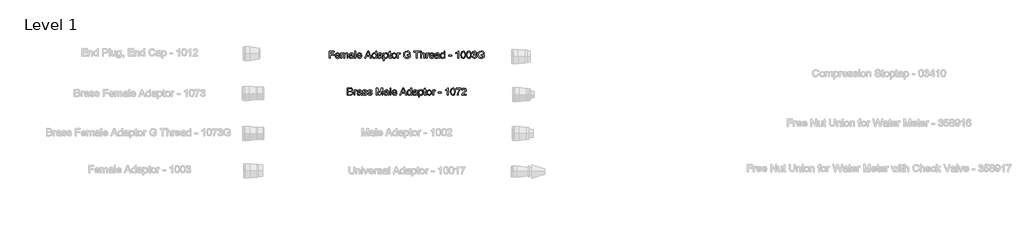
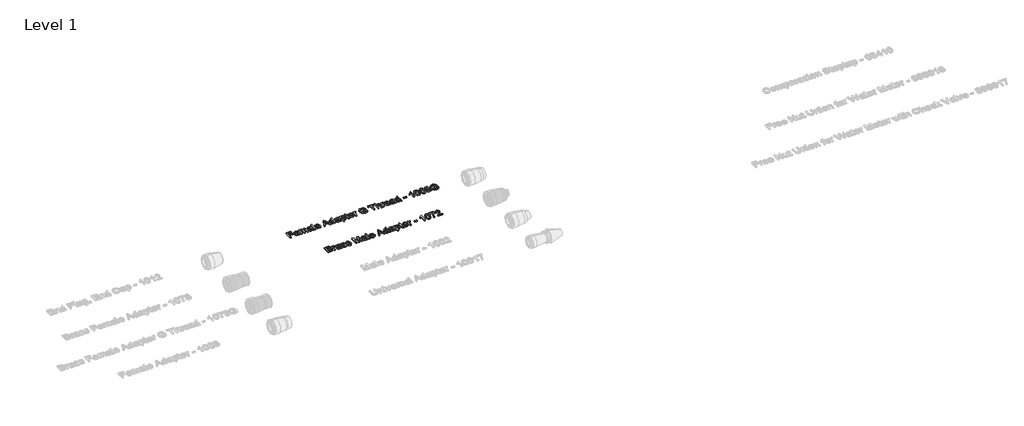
# One storey, part 10 of 13: 2 proxies.
"""IFC4 building model written with IfcOpenShell, lengths in millimetres."""

from ifc_helpers import new_model, si_unit, origin, origin_with_axes, place, context, project, spatial, polyline, outline, extrude, element, save

model = new_model("IFC4")

# Units and contexts
model_context = context("Model", 3, world=origin())
ifc_project = project(units=[si_unit("LENGTHUNIT", "METRE", prefix="MILLI")], contexts=[model_context])

# Site, building, storey
site = spatial("IfcSite", under=ifc_project)
building = spatial("IfcBuilding", under=site)
storey = spatial("IfcBuildingStorey", under=building, Name="Level 1", Elevation=0.0)

# Proxies
placement = place(None, origin())
element("IfcBuildingElementProxy", 1, Name="30 mm Arial", ObjectType="30 mm Arial", at=placement, inside=storey, context=model_context, shape_type="SweptSolid", body=[
    extrude(outline(polyline([(16639.7475855, 4915.4203685), (16639.7475855, 4944.9588301), (16659.5937393, 4944.9588301), (16659.5937393, 4941.2665224), (16643.4398932, 4941.2665224), (16643.4398932, 4932.4972916), (16657.286047, 4932.4972916), (16657.286047, 4928.8049839), (16643.4398932, 4928.8049839), (16643.4398932, 4915.4203685), (16639.7475855, 4915.4203685)])), origin_with_axes(), (0.0, 0.0, 1.0), 5.0),
    extrude(outline(polyline([(16679.3966239, 4921.881907), (16683.0168162, 4921.4203685), (16679.6309989, 4916.6535416), (16673.3245085, 4914.9588301), (16665.6586432, 4917.8831089), (16662.8245085, 4926.0862339), (16665.6874893, 4934.5597916), (16673.1153739, 4937.5742147), (16680.3305182, 4934.5670031), (16683.1322008, 4926.1078685), (16666.5168162, 4925.1126762), (16668.6406143, 4920.3170031), (16673.3966239, 4918.6511378), (16677.0168162, 4919.4227724), (16679.3966239, 4921.881907)]), holes=[polyline([(16666.5168162, 4928.8049839), (16679.4398932, 4928.8049839), (16677.9615278, 4932.1511378), (16673.1009508, 4933.881907), (16668.5540758, 4932.5008974), (16666.5168162, 4928.8049839)])]), origin_with_axes(), (0.0, 0.0, 1.0), 5.0),
    extrude(outline(polyline([(16686.8245085, 4915.4203685), (16686.8245085, 4937.1126762), (16690.5168162, 4937.1126762), (16690.5168162, 4933.5429647), (16693.0552778, 4936.4672435), (16696.6682585, 4937.5742147), (16700.3677778, 4936.4456089), (16702.4014316, 4933.2833493), (16708.9206624, 4937.5742147), (16713.7487874, 4935.7893589), (16715.4398932, 4930.2905608), (16715.4398932, 4915.4203685), (16711.7475855, 4915.4203685), (16711.7475855, 4928.7040224), (16711.4050374, 4931.7869551), (16710.1646528, 4933.3049839), (16708.0552778, 4933.881907), (16704.4242682, 4932.4035416), (16702.9783547, 4927.6655608), (16702.9783547, 4915.4203685), (16699.286047, 4915.4203685), (16699.286047, 4929.1150801), (16698.4314797, 4932.6920031), (16695.629797, 4933.881907), (16692.8966239, 4933.0886378), (16691.0793162, 4930.7665224), (16690.5168162, 4926.3602724), (16690.5168162, 4915.4203685), (16686.8245085, 4915.4203685)])), origin_with_axes(), (0.0, 0.0, 1.0), 5.0),
    extrude(outline(polyline([(16734.8245085, 4918.1895993), (16731.2439797, 4915.6871954), (16727.2884508, 4914.9588301), (16721.926672, 4916.7112339), (16720.0552778, 4921.1895993), (16720.7620085, 4924.1102724), (16722.6189797, 4926.2304647), (16725.2043162, 4927.4420031), (16728.3990278, 4927.9972916), (16734.8028739, 4929.2665224), (16733.8076816, 4932.8145993), (16729.7259508, 4933.881907), (16725.9903739, 4933.1715704), (16724.2091239, 4930.6511378), (16720.5168162, 4931.1126762), (16722.114172, 4934.7184454), (16725.3305182, 4936.8314262), (16730.2019124, 4937.5742147), (16734.676672, 4936.9179647), (16737.2043162, 4935.2701281), (16738.3365278, 4932.7641185), (16738.5168162, 4929.5333493), (16738.5168162, 4924.9395993), (16738.7043162, 4918.5249358), (16739.4398932, 4915.4203685), (16735.7475855, 4915.4203685), (16734.8245085, 4918.1895993)]), holes=[polyline([(16734.8136912, 4925.0513781), (16728.8677778, 4924.4420031), (16725.6910951, 4923.8434454), (16724.2523932, 4922.8698878), (16724.8473451, 4919.4516185), (16728.0745085, 4918.6511378), (16731.8100855, 4919.5345512), (16734.2187393, 4921.6727724), (16734.8136912, 4925.0513781)])]), origin_with_axes(), (0.0, 0.0, 1.0), 5.0),
    extrude(outline(polyline([(16743.5937393, 4915.4203685), (16743.5937393, 4944.9588301), (16747.286047, 4944.9588301), (16747.286047, 4915.4203685), (16743.5937393, 4915.4203685)])), origin_with_axes(), (0.0, 0.0, 1.0), 5.0),
    extrude(outline(polyline([(16768.0120085, 4921.881907), (16771.6322008, 4921.4203685), (16768.2463835, 4916.6535416), (16761.9398932, 4914.9588301), (16754.2740278, 4917.8831089), (16751.4398932, 4926.0862339), (16754.3028739, 4934.5597916), (16761.7307585, 4937.5742147), (16768.9459028, 4934.5670031), (16771.7475855, 4926.1078685), (16755.1322008, 4925.1126762), (16757.2559989, 4920.3170031), (16762.0120085, 4918.6511378), (16765.6322008, 4919.4227724), (16768.0120085, 4921.881907)]), holes=[polyline([(16755.1322008, 4928.8049839), (16768.0552778, 4928.8049839), (16766.5769124, 4932.1511378), (16761.7163355, 4933.881907), (16757.1694605, 4932.5008974), (16755.1322008, 4928.8049839)])]), origin_with_axes(), (0.0, 0.0, 1.0), 5.0),
    extrude(outline(polyline([(16783.9999893, 4915.4203685), (16795.7908547, 4944.9588301), (16798.9350855, 4944.9588301), (16810.7259508, 4915.4203685), (16806.8245085, 4915.4203685), (16803.442297, 4924.6511378), (16791.2764316, 4924.6511378), (16787.9014316, 4915.4203685), (16783.9999893, 4915.4203685)]), holes=[polyline([(16792.6322008, 4928.3434454), (16802.0937393, 4928.3434454), (16799.4326816, 4935.6054647), (16797.3629701, 4941.2665224), (16795.5240278, 4936.2400801), (16792.6322008, 4928.3434454)])]), origin_with_axes(), (0.0, 0.0, 1.0), 5.0),
    extrude(outline(polyline([(16827.5937393, 4915.4203685), (16827.5937393, 4918.9035416), (16821.7740278, 4914.9588301), (16817.2019124, 4916.3867147), (16813.9711432, 4920.3710897), (16812.8245085, 4926.2448878), (16813.8809989, 4932.1222916), (16817.0468643, 4936.1679647), (16821.7596047, 4937.5742147), (16825.1634508, 4936.5682051), (16827.5937393, 4933.9540224), (16827.5937393, 4944.9588301), (16831.286047, 4944.9588301), (16831.286047, 4915.4203685), (16827.5937393, 4915.4203685)]), holes=[polyline([(16816.5168162, 4926.2593108), (16818.1826816, 4920.5441666), (16822.1129701, 4918.6511378), (16825.9963835, 4920.4576281), (16827.5937393, 4925.9780608), (16825.9675374, 4931.9708493), (16821.9615278, 4933.881907), (16818.0745085, 4932.0465704), (16816.5168162, 4926.2593108)])]), origin_with_axes(), (0.0, 0.0, 1.0), 5.0),
    extrude(outline(polyline([(16850.6706624, 4918.1895993), (16847.0901335, 4915.6871954), (16843.1346047, 4914.9588301), (16837.7728258, 4916.7112339), (16835.9014316, 4921.1895993), (16836.6081624, 4924.1102724), (16838.4651335, 4926.2304647), (16841.0504701, 4927.4420031), (16844.2451816, 4927.9972916), (16850.6490278, 4929.2665224), (16849.6538355, 4932.8145993), (16845.5721047, 4933.881907), (16841.8365278, 4933.1715704), (16840.0552778, 4930.6511378), (16836.3629701, 4931.1126762), (16837.9603258, 4934.7184454), (16841.176672, 4936.8314262), (16846.0480662, 4937.5742147), (16850.5228258, 4936.9179647), (16853.0504701, 4935.2701281), (16854.1826816, 4932.7641185), (16854.3629701, 4929.5333493), (16854.3629701, 4924.9395993), (16854.5504701, 4918.5249358), (16855.286047, 4915.4203685), (16851.5937393, 4915.4203685), (16850.6706624, 4918.1895993)]), holes=[polyline([(16850.6598451, 4925.0513781), (16844.7139316, 4924.4420031), (16841.5372489, 4923.8434454), (16840.098547, 4922.8698878), (16840.6934989, 4919.4516185), (16843.9206624, 4918.6511378), (16847.6562393, 4919.5345512), (16850.0648932, 4921.6727724), (16850.6598451, 4925.0513781)])]), origin_with_axes(), (0.0, 0.0, 1.0), 5.0),
    extrude(outline(polyline([(16859.4398932, 4907.1126762), (16859.4398932, 4937.1126762), (16863.1322008, 4937.1126762), (16863.1322008, 4933.4924839), (16865.6850855, 4936.553782), (16869.1322008, 4937.5742147), (16873.8124893, 4936.1463301), (16876.8701816, 4932.1222916), (16877.9014316, 4926.4323878), (16876.7367682, 4920.4504166), (16873.3545566, 4916.3758974), (16868.6850855, 4914.9588301), (16865.4723451, 4915.9071474), (16863.1322008, 4918.3049839), (16863.1322008, 4907.1126762), (16859.4398932, 4907.1126762)]), holes=[polyline([(16863.1322008, 4926.0934454), (16864.7295566, 4920.4684454), (16868.6057585, 4918.6511378), (16872.5612874, 4920.5333493), (16874.2091239, 4926.3674839), (16872.6009508, 4932.006907), (16868.7572008, 4933.881907), (16864.8377297, 4931.8879166), (16863.1322008, 4926.0934454)])]), origin_with_axes(), (0.0, 0.0, 1.0), 5.0),
    extrude(outline(polyline([(16889.9014316, 4918.4996954), (16890.3629701, 4915.3121954), (16887.6009508, 4914.9588301), (16884.5072008, 4915.5718108), (16882.9639316, 4917.1799839), (16882.5168162, 4921.3698878), (16882.5168162, 4933.4203685), (16879.7475855, 4933.4203685), (16879.7475855, 4937.1126762), (16882.5168162, 4937.1126762), (16882.5168162, 4942.3843108), (16886.2091239, 4944.5549839), (16886.2091239, 4937.1126762), (16889.9014316, 4937.1126762), (16889.9014316, 4933.4203685), (16886.2091239, 4933.4203685), (16886.2091239, 4921.4780608), (16886.4038355, 4919.5742147), (16889.9014316, 4918.4996954)])), origin_with_axes(), (0.0, 0.0, 1.0), 5.0),
    extrude(outline(polyline([(16892.6706624, 4926.2665224), (16895.8653739, 4935.1727724), (16902.3701816, 4937.5742147), (16909.3473451, 4934.6499358), (16912.0552778, 4926.569407), (16910.8581624, 4919.9996954), (16907.3713835, 4916.2821474), (16902.3701816, 4914.9588301), (16895.3497489, 4917.8722916), (16892.6706624, 4926.2665224)]), holes=[polyline([(16896.3629701, 4926.2737339), (16898.0721047, 4920.5513781), (16902.3701816, 4918.6511378), (16906.6538355, 4920.5621954), (16908.3629701, 4926.3891185), (16906.6430182, 4931.9816666), (16902.3701816, 4933.881907), (16898.0721047, 4931.9888781), (16896.3629701, 4926.2737339)])]), origin_with_axes(), (0.0, 0.0, 1.0), 5.0),
    extrude(outline(polyline([(16916.2091239, 4915.4203685), (16916.2091239, 4937.1126762), (16919.4398932, 4937.1126762), (16919.4398932, 4933.9035416), (16921.7331624, 4936.8602724), (16924.0408547, 4937.5742147), (16927.7475855, 4936.4347916), (16926.5144124, 4933.1246954), (16923.9182585, 4933.881907), (16921.8305182, 4933.1535416), (16920.4999893, 4931.1343108), (16919.9014316, 4926.8218108), (16919.9014316, 4915.4203685), (16916.2091239, 4915.4203685)])), origin_with_axes(), (0.0, 0.0, 1.0), 5.0),
    extrude(outline(polyline([(16955.9014316, 4926.9588301), (16955.9014316, 4930.6511378), (16967.9014316, 4930.6511378), (16967.9014316, 4919.6102724), (16961.9771528, 4916.1270993), (16955.7139316, 4914.9588301), (16947.8281143, 4916.8158012), (16942.4771528, 4922.1920031), (16940.6706624, 4930.0453685), (16942.4699412, 4938.0754166), (16947.6442201, 4943.6102724), (16955.4182585, 4945.4203685), (16961.1947008, 4944.3710897), (16965.2439797, 4941.4504166), (16967.4759508, 4936.5645993), (16964.0721047, 4935.6054647), (16962.3882105, 4939.0201281), (16959.5108066, 4940.9888781), (16955.3605662, 4941.7280608), (16950.6334028, 4940.9311858), (16947.4170566, 4938.8398397), (16945.5168162, 4935.9948878), (16944.3629701, 4930.1968108), (16945.7511912, 4923.7605128), (16949.7896528, 4919.9095512), (16955.4182585, 4918.6511378), (16960.4699412, 4919.5994551), (16964.2091239, 4921.6222916), (16964.2091239, 4926.9588301), (16955.9014316, 4926.9588301)])), origin_with_axes(), (0.0, 0.0, 1.0), 5.0),
    extrude(outline(polyline([(16992.8245085, 4915.4203685), (16992.8245085, 4941.2665224), (16983.1322008, 4941.2665224), (16983.1322008, 4944.9588301), (17006.2091239, 4944.9588301), (17006.2091239, 4941.2665224), (16996.5168162, 4941.2665224), (16996.5168162, 4915.4203685), (16992.8245085, 4915.4203685)])), origin_with_axes(), (0.0, 0.0, 1.0), 5.0),
    extrude(outline(polyline([(17009.9014316, 4915.4203685), (17009.9014316, 4944.9588301), (17013.5937393, 4944.9588301), (17013.5937393, 4934.0982531), (17020.0192201, 4937.5742147), (17024.1658547, 4936.6258974), (17026.6826816, 4934.0045031), (17027.4398932, 4929.1511378), (17027.4398932, 4915.4203685), (17023.7475855, 4915.4203685), (17023.7475855, 4928.7689262), (17022.5721047, 4932.663157), (17019.2403739, 4933.881907), (17016.2151335, 4933.0597916), (17014.1959028, 4930.8314262), (17013.5937393, 4926.944407), (17013.5937393, 4915.4203685), (17009.9014316, 4915.4203685)])), origin_with_axes(), (0.0, 0.0, 1.0), 5.0),
    extrude(outline(polyline([(17032.5168162, 4915.4203685), (17032.5168162, 4937.1126762), (17035.7475855, 4937.1126762), (17035.7475855, 4933.9035416), (17038.0408547, 4936.8602724), (17040.348547, 4937.5742147), (17044.0552778, 4936.4347916), (17042.8221047, 4933.1246954), (17040.2259508, 4933.881907), (17038.1382105, 4933.1535416), (17036.8076816, 4931.1343108), (17036.2091239, 4926.8218108), (17036.2091239, 4915.4203685), (17032.5168162, 4915.4203685)])), origin_with_axes(), (0.0, 0.0, 1.0), 5.0),
    extrude(outline(polyline([(17061.5504701, 4921.881907), (17065.1706624, 4921.4203685), (17061.7848451, 4916.6535416), (17055.4783547, 4914.9588301), (17047.8124893, 4917.8831089), (17044.9783547, 4926.0862339), (17047.8413355, 4934.5597916), (17055.2692201, 4937.5742147), (17062.4843643, 4934.5670031), (17065.286047, 4926.1078685), (17048.6706624, 4925.1126762), (17050.7944605, 4920.3170031), (17055.5504701, 4918.6511378), (17059.1706624, 4919.4227724), (17061.5504701, 4921.881907)]), holes=[polyline([(17048.6706624, 4928.8049839), (17061.5937393, 4928.8049839), (17060.1153739, 4932.1511378), (17055.254797, 4933.881907), (17050.707922, 4932.5008974), (17048.6706624, 4928.8049839)])]), origin_with_axes(), (0.0, 0.0, 1.0), 5.0),
    extrude(outline(polyline([(17082.8245085, 4918.1895993), (17079.2439797, 4915.6871954), (17075.2884508, 4914.9588301), (17069.926672, 4916.7112339), (17068.0552778, 4921.1895993), (17068.7620085, 4924.1102724), (17070.6189797, 4926.2304647), (17073.2043162, 4927.4420031), (17076.3990278, 4927.9972916), (17082.8028739, 4929.2665224), (17081.8076816, 4932.8145993), (17077.7259508, 4933.881907), (17073.9903739, 4933.1715704), (17072.2091239, 4930.6511378), (17068.5168162, 4931.1126762), (17070.114172, 4934.7184454), (17073.3305182, 4936.8314262), (17078.2019124, 4937.5742147), (17082.676672, 4936.9179647), (17085.2043162, 4935.2701281), (17086.3365278, 4932.7641185), (17086.5168162, 4929.5333493), (17086.5168162, 4924.9395993), (17086.7043162, 4918.5249358), (17087.4398932, 4915.4203685), (17083.7475855, 4915.4203685), (17082.8245085, 4918.1895993)]), holes=[polyline([(17082.8136912, 4925.0513781), (17076.8677778, 4924.4420031), (17073.6910951, 4923.8434454), (17072.2523932, 4922.8698878), (17072.8473451, 4919.4516185), (17076.0745085, 4918.6511378), (17079.8100855, 4919.5345512), (17082.2187393, 4921.6727724), (17082.8136912, 4925.0513781)])]), origin_with_axes(), (0.0, 0.0, 1.0), 5.0),
    extrude(outline(polyline([(17104.9783547, 4915.4203685), (17104.9783547, 4918.9035416), (17099.1586432, 4914.9588301), (17094.5865278, 4916.3867147), (17091.3557585, 4920.3710897), (17090.2091239, 4926.2448878), (17091.2656143, 4932.1222916), (17094.4314797, 4936.1679647), (17099.1442201, 4937.5742147), (17102.5480662, 4936.5682051), (17104.9783547, 4933.9540224), (17104.9783547, 4944.9588301), (17108.6706624, 4944.9588301), (17108.6706624, 4915.4203685), (17104.9783547, 4915.4203685)]), holes=[polyline([(17093.9014316, 4926.2593108), (17095.567297, 4920.5441666), (17099.4975855, 4918.6511378), (17103.3809989, 4920.4576281), (17104.9783547, 4925.9780608), (17103.3521528, 4931.9708493), (17099.3461432, 4933.881907), (17095.4591239, 4932.0465704), (17093.9014316, 4926.2593108)])]), origin_with_axes(), (0.0, 0.0, 1.0), 5.0),
    extrude(outline(polyline([(17123.9014316, 4924.1895993), (17123.9014316, 4927.881907), (17135.4398932, 4927.881907), (17135.4398932, 4924.1895993), (17123.9014316, 4924.1895993)])), origin_with_axes(), (0.0, 0.0, 1.0), 5.0),
    extrude(outline(polyline([(17164.0552778, 4915.4203685), (17160.3629701, 4915.4203685), (17160.3629701, 4938.4395993), (17156.8653739, 4935.9480128), (17152.9783547, 4934.0838301), (17152.9783547, 4937.5742147), (17158.3906143, 4941.0285416), (17161.6754701, 4944.9588301), (17164.0552778, 4944.9588301), (17164.0552778, 4915.4203685)])), origin_with_axes(), (0.0, 0.0, 1.0), 5.0),
    extrude(outline(polyline([(17172.8245085, 4929.9516185), (17173.9098451, 4938.4504166), (17177.1334028, 4943.350657), (17182.5168162, 4944.9588301), (17186.8293162, 4944.006907), (17189.8076816, 4941.2629166), (17191.5384508, 4936.8927243), (17192.2091239, 4929.9516185), (17191.1346047, 4921.4888781), (17187.9218643, 4916.5778204), (17182.5168162, 4914.9588301), (17175.7668162, 4917.7713301), (17172.8245085, 4929.9516185)]), holes=[polyline([(17176.5168162, 4929.9588301), (17178.2475855, 4920.7893589), (17182.5168162, 4918.6511378), (17186.786047, 4920.7965704), (17188.5168162, 4929.9588301), (17186.8437393, 4939.0237339), (17182.473547, 4941.2665224), (17178.3052778, 4939.2905608), (17176.5168162, 4929.9588301)])]), origin_with_axes(), (0.0, 0.0, 1.0), 5.0),
    extrude(outline(polyline([(17195.4398932, 4929.9516185), (17196.5252297, 4938.4504166), (17199.7487874, 4943.350657), (17205.1322008, 4944.9588301), (17209.4447008, 4944.006907), (17212.4230662, 4941.2629166), (17214.1538355, 4936.8927243), (17214.8245085, 4929.9516185), (17213.7499893, 4921.4888781), (17210.5372489, 4916.5778204), (17205.1322008, 4914.9588301), (17198.3822008, 4917.7713301), (17195.4398932, 4929.9516185)]), holes=[polyline([(17199.1322008, 4929.9588301), (17200.8629701, 4920.7893589), (17205.1322008, 4918.6511378), (17209.4014316, 4920.7965704), (17211.1322008, 4929.9588301), (17209.4591239, 4939.0237339), (17205.0889316, 4941.2665224), (17200.9206624, 4939.2905608), (17199.1322008, 4929.9588301)])]), origin_with_axes(), (0.0, 0.0, 1.0), 5.0),
    extrude(outline(polyline([(17218.0552778, 4923.2665224), (17221.7475855, 4923.7280608), (17223.7848451, 4919.8410416), (17227.5961432, 4918.6511378), (17232.0817201, 4920.288157), (17233.7475855, 4924.3410416), (17232.0961432, 4928.1595512), (17227.8990278, 4929.6703685), (17225.3100855, 4929.2665224), (17225.7211432, 4932.9588301), (17230.5023932, 4933.975657), (17232.3629701, 4937.2352724), (17231.0144124, 4940.1234935), (17227.5384508, 4941.2665224), (17224.0192201, 4940.1126762), (17222.2091239, 4936.6511378), (17218.5168162, 4937.1126762), (17221.5384508, 4942.9035416), (17227.4086432, 4944.9588301), (17231.8617682, 4943.9456089), (17234.9771528, 4941.1763781), (17236.0552778, 4937.4516185), (17235.0312393, 4934.0477724), (17232.0023932, 4931.6030608), (17236.0264316, 4929.0790224), (17237.4398932, 4924.2761378), (17234.6129701, 4917.6703685), (17227.4663355, 4914.9588301), (17220.9903739, 4917.2737339), (17218.0552778, 4923.2665224)])), origin_with_axes(), (0.0, 0.0, 1.0), 5.0),
    extrude(outline(polyline([(17255.9014316, 4926.9588301), (17255.9014316, 4930.6511378), (17267.9014316, 4930.6511378), (17267.9014316, 4919.6102724), (17261.9771528, 4916.1270993), (17255.7139316, 4914.9588301), (17247.8281143, 4916.8158012), (17242.4771528, 4922.1920031), (17240.6706624, 4930.0453685), (17242.4699412, 4938.0754166), (17247.6442201, 4943.6102724), (17255.4182585, 4945.4203685), (17261.1947008, 4944.3710897), (17265.2439797, 4941.4504166), (17267.4759508, 4936.5645993), (17264.0721047, 4935.6054647), (17262.3882105, 4939.0201281), (17259.5108066, 4940.9888781), (17255.3605662, 4941.7280608), (17250.6334028, 4940.9311858), (17247.4170566, 4938.8398397), (17245.5168162, 4935.9948878), (17244.3629701, 4930.1968108), (17245.7511912, 4923.7605128), (17249.7896528, 4919.9095512), (17255.4182585, 4918.6511378), (17260.4699412, 4919.5994551), (17264.2091239, 4921.6222916), (17264.2091239, 4926.9588301), (17255.9014316, 4926.9588301)])), origin_with_axes(), (0.0, 0.0, 1.0), 5.0),
])
element("IfcBuildingElementProxy", 2, Name="30 mm Arial", ObjectType="30 mm Arial", at=placement, inside=storey, context=model_context, shape_type="SweptSolid", body=[
    extrude(outline(polyline([(16713.3629701, 4765.4203685), (16713.3629701, 4794.9588301), (16724.6346047, 4794.9588301), (16730.1550374, 4794.0898397), (16733.4146528, 4791.4179647), (16734.5937393, 4787.6391185), (16733.6021528, 4784.1883974), (16730.6057585, 4781.5742147), (16734.2439797, 4778.819407), (16735.5168162, 4774.225657), (16734.6478258, 4770.2557051), (16732.4951816, 4767.428782), (16729.2824412, 4765.928782), (16724.5480662, 4765.4203685), (16713.3629701, 4765.4203685)]), holes=[polyline([(16717.0552778, 4769.1126762), (16724.6273932, 4769.1126762), (16727.3677778, 4769.256907), (16729.6862874, 4770.0609935), (16731.2223451, 4771.7016185), (16731.8245085, 4774.1895993), (16731.1177778, 4777.0597916), (16728.8281143, 4778.772532), (16724.2668162, 4779.2665224), (16717.0552778, 4779.2665224), (16717.0552778, 4769.1126762)]), polyline([(16717.0552778, 4782.9588301), (16723.7980662, 4782.9588301), (16727.7355662, 4783.2761378), (16730.1045566, 4784.6427243), (16730.9014316, 4787.0477724), (16730.1586432, 4789.4564262), (16728.0312393, 4790.8807051), (16723.286047, 4791.2665224), (16717.0552778, 4791.2665224), (16717.0552778, 4782.9588301)])]), origin_with_axes(), (0.0, 0.0, 1.0), 5.0),
    extrude(outline(polyline([(16740.1322008, 4765.4203685), (16740.1322008, 4787.1126762), (16743.3629701, 4787.1126762), (16743.3629701, 4783.9035416), (16745.6562393, 4786.8602724), (16747.9639316, 4787.5742147), (16751.6706624, 4786.4347916), (16750.4374893, 4783.1246954), (16747.8413355, 4783.881907), (16745.7535951, 4783.1535416), (16744.4230662, 4781.1343108), (16743.8245085, 4776.8218108), (16743.8245085, 4765.4203685), (16740.1322008, 4765.4203685)])), origin_with_axes(), (0.0, 0.0, 1.0), 5.0),
    extrude(outline(polyline([(16767.8245085, 4768.1895993), (16764.2439797, 4765.6871954), (16760.2884508, 4764.9588301), (16754.926672, 4766.7112339), (16753.0552778, 4771.1895993), (16753.7620085, 4774.1102724), (16755.6189797, 4776.2304647), (16758.2043162, 4777.4420031), (16761.3990278, 4777.9972916), (16767.8028739, 4779.2665224), (16766.8076816, 4782.8145993), (16762.7259508, 4783.881907), (16758.9903739, 4783.1715704), (16757.2091239, 4780.6511378), (16753.5168162, 4781.1126762), (16755.114172, 4784.7184454), (16758.3305182, 4786.8314262), (16763.2019124, 4787.5742147), (16767.676672, 4786.9179647), (16770.2043162, 4785.2701281), (16771.3365278, 4782.7641185), (16771.5168162, 4779.5333493), (16771.5168162, 4774.9395993), (16771.7043162, 4768.5249358), (16772.4398932, 4765.4203685), (16768.7475855, 4765.4203685), (16767.8245085, 4768.1895993)]), holes=[polyline([(16767.8136912, 4775.0513781), (16761.8677778, 4774.4420031), (16758.6910951, 4773.8434454), (16757.2523932, 4772.8698878), (16757.8473451, 4769.4516185), (16761.0745085, 4768.6511378), (16764.8100855, 4769.5345512), (16767.2187393, 4771.6727724), (16767.8136912, 4775.0513781)])]), origin_with_axes(), (0.0, 0.0, 1.0), 5.0),
    extrude(outline(polyline([(16775.2091239, 4771.881907), (16778.9014316, 4772.3434454), (16780.6105662, 4769.6030608), (16784.5264316, 4768.6511378), (16788.2908547, 4769.5237339), (16789.5168162, 4771.5718108), (16788.2836432, 4773.2304647), (16784.4831624, 4774.2833493), (16778.9230662, 4776.0898397), (16776.4963835, 4778.1992147), (16775.6706624, 4781.1775801), (16776.3341239, 4783.928782), (16778.1442201, 4786.0309454), (16780.4915758, 4787.1234935), (16783.6682585, 4787.5742147), (16788.161047, 4786.8494551), (16791.0168162, 4784.8879166), (16792.286047, 4781.5742147), (16788.5937393, 4781.1126762), (16787.2055182, 4783.1499358), (16783.9567201, 4783.881907), (16780.4230662, 4783.1823878), (16779.3629701, 4781.5525801), (16781.1802778, 4779.663157), (16784.3605662, 4778.8770993), (16789.7800374, 4777.1391185), (16792.2968643, 4775.1703685), (16793.2091239, 4771.9612339), (16792.1382105, 4768.4275801), (16789.0480662, 4765.8638781), (16784.4759508, 4764.9588301), (16778.036047, 4766.7040224), (16775.2091239, 4771.881907)])), origin_with_axes(), (0.0, 0.0, 1.0), 5.0),
    extrude(outline(polyline([(16795.9783547, 4771.881907), (16799.6706624, 4772.3434454), (16801.379797, 4769.6030608), (16805.2956624, 4768.6511378), (16809.0600855, 4769.5237339), (16810.286047, 4771.5718108), (16809.0528739, 4773.2304647), (16805.2523932, 4774.2833493), (16799.692297, 4776.0898397), (16797.2656143, 4778.1992147), (16796.4398932, 4781.1775801), (16797.1033547, 4783.928782), (16798.9134508, 4786.0309454), (16801.2608066, 4787.1234935), (16804.4374893, 4787.5742147), (16808.9302778, 4786.8494551), (16811.786047, 4784.8879166), (16813.0552778, 4781.5742147), (16809.3629701, 4781.1126762), (16807.9747489, 4783.1499358), (16804.7259508, 4783.881907), (16801.192297, 4783.1823878), (16800.1322008, 4781.5525801), (16801.9495085, 4779.663157), (16805.129797, 4778.8770993), (16810.5492682, 4777.1391185), (16813.0660951, 4775.1703685), (16813.9783547, 4771.9612339), (16812.9074412, 4768.4275801), (16809.817297, 4765.8638781), (16805.2451816, 4764.9588301), (16798.8052778, 4766.7040224), (16795.9783547, 4771.881907)])), origin_with_axes(), (0.0, 0.0, 1.0), 5.0),
    extrude(outline(polyline([(16830.1322008, 4765.4203685), (16830.1322008, 4794.9588301), (16836.4855662, 4794.9588301), (16842.5288355, 4774.1391185), (16843.7475855, 4769.7905608), (16845.067297, 4774.4996954), (16851.0096047, 4794.9588301), (16857.3629701, 4794.9588301), (16857.3629701, 4765.4203685), (16853.6706624, 4765.4203685), (16853.6706624, 4791.2665224), (16846.2499893, 4765.4203685), (16841.2451816, 4765.4203685), (16833.8245085, 4791.2665224), (16833.8245085, 4765.4203685), (16830.1322008, 4765.4203685)])), origin_with_axes(), (0.0, 0.0, 1.0), 5.0),
    extrude(outline(polyline([(16877.2091239, 4768.1895993), (16873.6285951, 4765.6871954), (16869.6730662, 4764.9588301), (16864.3112874, 4766.7112339), (16862.4398932, 4771.1895993), (16863.1466239, 4774.1102724), (16865.0035951, 4776.2304647), (16867.5889316, 4777.4420031), (16870.7836432, 4777.9972916), (16877.1874893, 4779.2665224), (16876.192297, 4782.8145993), (16872.1105662, 4783.881907), (16868.3749893, 4783.1715704), (16866.5937393, 4780.6511378), (16862.9014316, 4781.1126762), (16864.4987874, 4784.7184454), (16867.7151335, 4786.8314262), (16872.5865278, 4787.5742147), (16877.0612874, 4786.9179647), (16879.5889316, 4785.2701281), (16880.7211432, 4782.7641185), (16880.9014316, 4779.5333493), (16880.9014316, 4774.9395993), (16881.0889316, 4768.5249358), (16881.8245085, 4765.4203685), (16878.1322008, 4765.4203685), (16877.2091239, 4768.1895993)]), holes=[polyline([(16877.1983066, 4775.0513781), (16871.2523932, 4774.4420031), (16868.0757105, 4773.8434454), (16866.6370085, 4772.8698878), (16867.2319605, 4769.4516185), (16870.4591239, 4768.6511378), (16874.1947008, 4769.5345512), (16876.6033547, 4771.6727724), (16877.1983066, 4775.0513781)])]), origin_with_axes(), (0.0, 0.0, 1.0), 5.0),
    extrude(outline(polyline([(16885.9783547, 4765.4203685), (16885.9783547, 4794.9588301), (16889.6706624, 4794.9588301), (16889.6706624, 4765.4203685), (16885.9783547, 4765.4203685)])), origin_with_axes(), (0.0, 0.0, 1.0), 5.0),
    extrude(outline(polyline([(16910.3966239, 4771.881907), (16914.0168162, 4771.4203685), (16910.6309989, 4766.6535416), (16904.3245085, 4764.9588301), (16896.6586432, 4767.8831089), (16893.8245085, 4776.0862339), (16896.6874893, 4784.5597916), (16904.1153739, 4787.5742147), (16911.3305182, 4784.5670031), (16914.1322008, 4776.1078685), (16897.5168162, 4775.1126762), (16899.6406143, 4770.3170031), (16904.3966239, 4768.6511378), (16908.0168162, 4769.4227724), (16910.3966239, 4771.881907)]), holes=[polyline([(16897.5168162, 4778.8049839), (16910.4398932, 4778.8049839), (16908.9615278, 4782.1511378), (16904.1009508, 4783.881907), (16899.5540758, 4782.5008974), (16897.5168162, 4778.8049839)])]), origin_with_axes(), (0.0, 0.0, 1.0), 5.0),
    extrude(outline(polyline([(16926.3846047, 4765.4203685), (16938.1754701, 4794.9588301), (16941.3197008, 4794.9588301), (16953.1105662, 4765.4203685), (16949.2091239, 4765.4203685), (16945.8269124, 4774.6511378), (16933.661047, 4774.6511378), (16930.286047, 4765.4203685), (16926.3846047, 4765.4203685)]), holes=[polyline([(16935.0168162, 4778.3434454), (16944.4783547, 4778.3434454), (16941.817297, 4785.6054647), (16939.7475855, 4791.2665224), (16937.9086432, 4786.2400801), (16935.0168162, 4778.3434454)])]), origin_with_axes(), (0.0, 0.0, 1.0), 5.0),
    extrude(outline(polyline([(16969.9783547, 4765.4203685), (16969.9783547, 4768.9035416), (16964.1586432, 4764.9588301), (16959.5865278, 4766.3867147), (16956.3557585, 4770.3710897), (16955.2091239, 4776.2448878), (16956.2656143, 4782.1222916), (16959.4314797, 4786.1679647), (16964.1442201, 4787.5742147), (16967.5480662, 4786.5682051), (16969.9783547, 4783.9540224), (16969.9783547, 4794.9588301), (16973.6706624, 4794.9588301), (16973.6706624, 4765.4203685), (16969.9783547, 4765.4203685)]), holes=[polyline([(16958.9014316, 4776.2593108), (16960.567297, 4770.5441666), (16964.4975855, 4768.6511378), (16968.3809989, 4770.4576281), (16969.9783547, 4775.9780608), (16968.3521528, 4781.9708493), (16964.3461432, 4783.881907), (16960.4591239, 4782.0465704), (16958.9014316, 4776.2593108)])]), origin_with_axes(), (0.0, 0.0, 1.0), 5.0),
    extrude(outline(polyline([(16993.0552778, 4768.1895993), (16989.4747489, 4765.6871954), (16985.5192201, 4764.9588301), (16980.1574412, 4766.7112339), (16978.286047, 4771.1895993), (16978.9927778, 4774.1102724), (16980.8497489, 4776.2304647), (16983.4350855, 4777.4420031), (16986.629797, 4777.9972916), (16993.0336432, 4779.2665224), (16992.0384508, 4782.8145993), (16987.9567201, 4783.881907), (16984.2211432, 4783.1715704), (16982.4398932, 4780.6511378), (16978.7475855, 4781.1126762), (16980.3449412, 4784.7184454), (16983.5612874, 4786.8314262), (16988.4326816, 4787.5742147), (16992.9074412, 4786.9179647), (16995.4350855, 4785.2701281), (16996.567297, 4782.7641185), (16996.7475855, 4779.5333493), (16996.7475855, 4774.9395993), (16996.9350855, 4768.5249358), (16997.6706624, 4765.4203685), (16993.9783547, 4765.4203685), (16993.0552778, 4768.1895993)]), holes=[polyline([(16993.0444605, 4775.0513781), (16987.098547, 4774.4420031), (16983.9218643, 4773.8434454), (16982.4831624, 4772.8698878), (16983.0781143, 4769.4516185), (16986.3052778, 4768.6511378), (16990.0408547, 4769.5345512), (16992.4495085, 4771.6727724), (16993.0444605, 4775.0513781)])]), origin_with_axes(), (0.0, 0.0, 1.0), 5.0),
    extrude(outline(polyline([(17001.8245085, 4757.1126762), (17001.8245085, 4787.1126762), (17005.5168162, 4787.1126762), (17005.5168162, 4783.4924839), (17008.0697008, 4786.553782), (17011.5168162, 4787.5742147), (17016.1971047, 4786.1463301), (17019.254797, 4782.1222916), (17020.286047, 4776.4323878), (17019.1213835, 4770.4504166), (17015.739172, 4766.3758974), (17011.0697008, 4764.9588301), (17007.8569605, 4765.9071474), (17005.5168162, 4768.3049839), (17005.5168162, 4757.1126762), (17001.8245085, 4757.1126762)]), holes=[polyline([(17005.5168162, 4776.0934454), (17007.114172, 4770.4684454), (17010.9903739, 4768.6511378), (17014.9459028, 4770.5333493), (17016.5937393, 4776.3674839), (17014.9855662, 4782.006907), (17011.1418162, 4783.881907), (17007.2223451, 4781.8879166), (17005.5168162, 4776.0934454)])]), origin_with_axes(), (0.0, 0.0, 1.0), 5.0),
    extrude(outline(polyline([(17032.286047, 4768.4996954), (17032.7475855, 4765.3121954), (17029.9855662, 4764.9588301), (17026.8918162, 4765.5718108), (17025.348547, 4767.1799839), (17024.9014316, 4771.3698878), (17024.9014316, 4783.4203685), (17022.1322008, 4783.4203685), (17022.1322008, 4787.1126762), (17024.9014316, 4787.1126762), (17024.9014316, 4792.3843108), (17028.5937393, 4794.5549839), (17028.5937393, 4787.1126762), (17032.286047, 4787.1126762), (17032.286047, 4783.4203685), (17028.5937393, 4783.4203685), (17028.5937393, 4771.4780608), (17028.7884508, 4769.5742147), (17032.286047, 4768.4996954)])), origin_with_axes(), (0.0, 0.0, 1.0), 5.0),
    extrude(outline(polyline([(17035.0552778, 4776.2665224), (17038.2499893, 4785.1727724), (17044.754797, 4787.5742147), (17051.7319605, 4784.6499358), (17054.4398932, 4776.569407), (17053.2427778, 4769.9996954), (17049.7559989, 4766.2821474), (17044.754797, 4764.9588301), (17037.7343643, 4767.8722916), (17035.0552778, 4776.2665224)]), holes=[polyline([(17038.7475855, 4776.2737339), (17040.4567201, 4770.5513781), (17044.754797, 4768.6511378), (17049.0384508, 4770.5621954), (17050.7475855, 4776.3891185), (17049.0276335, 4781.9816666), (17044.754797, 4783.881907), (17040.4567201, 4781.9888781), (17038.7475855, 4776.2737339)])]), origin_with_axes(), (0.0, 0.0, 1.0), 5.0),
    extrude(outline(polyline([(17058.5937393, 4765.4203685), (17058.5937393, 4787.1126762), (17061.8245085, 4787.1126762), (17061.8245085, 4783.9035416), (17064.1177778, 4786.8602724), (17066.4254701, 4787.5742147), (17070.1322008, 4786.4347916), (17068.8990278, 4783.1246954), (17066.3028739, 4783.881907), (17064.2151335, 4783.1535416), (17062.8846047, 4781.1343108), (17062.286047, 4776.8218108), (17062.286047, 4765.4203685), (17058.5937393, 4765.4203685)])), origin_with_axes(), (0.0, 0.0, 1.0), 5.0),
    extrude(outline(polyline([(17082.1322008, 4774.1895993), (17082.1322008, 4777.881907), (17093.6706624, 4777.881907), (17093.6706624, 4774.1895993), (17082.1322008, 4774.1895993)])), origin_with_axes(), (0.0, 0.0, 1.0), 5.0),
    extrude(outline(polyline([(17122.286047, 4765.4203685), (17118.5937393, 4765.4203685), (17118.5937393, 4788.4395993), (17115.0961432, 4785.9480128), (17111.2091239, 4784.0838301), (17111.2091239, 4787.5742147), (17116.6213835, 4791.0285416), (17119.9062393, 4794.9588301), (17122.286047, 4794.9588301), (17122.286047, 4765.4203685)])), origin_with_axes(), (0.0, 0.0, 1.0), 5.0),
    extrude(outline(polyline([(17131.0552778, 4779.9516185), (17132.1406143, 4788.4504166), (17135.364172, 4793.350657), (17140.7475855, 4794.9588301), (17145.0600855, 4794.006907), (17148.0384508, 4791.2629166), (17149.7692201, 4786.8927243), (17150.4398932, 4779.9516185), (17149.3653739, 4771.4888781), (17146.1526335, 4766.5778204), (17140.7475855, 4764.9588301), (17133.9975855, 4767.7713301), (17131.0552778, 4779.9516185)]), holes=[polyline([(17134.7475855, 4779.9588301), (17136.4783547, 4770.7893589), (17140.7475855, 4768.6511378), (17145.0168162, 4770.7965704), (17146.7475855, 4779.9588301), (17145.0745085, 4789.0237339), (17140.7043162, 4791.2665224), (17136.536047, 4789.2905608), (17134.7475855, 4779.9588301)])]), origin_with_axes(), (0.0, 0.0, 1.0), 5.0),
    extrude(outline(polyline([(17153.6706624, 4790.8049839), (17153.6706624, 4794.4972916), (17173.0552778, 4794.4972916), (17173.0552778, 4791.5117147), (17167.5564797, 4783.5682051), (17163.348547, 4773.4468108), (17161.9783547, 4765.4203685), (17158.286047, 4765.4203685), (17159.7535951, 4773.7496954), (17163.7812393, 4783.1643589), (17169.3629701, 4790.8049839), (17153.6706624, 4790.8049839)])), origin_with_axes(), (0.0, 0.0, 1.0), 5.0),
    extrude(outline(polyline([(17195.2091239, 4769.1126762), (17195.2091239, 4765.4203685), (17175.8245085, 4765.4203685), (17176.2211432, 4767.9660416), (17178.4639316, 4771.8855128), (17183.0865278, 4776.1655608), (17189.4615278, 4782.3170031), (17191.0552778, 4786.4996954), (17189.551672, 4789.8855128), (17185.6249893, 4791.2665224), (17181.5324412, 4789.9179647), (17179.9783547, 4786.1895993), (17176.286047, 4786.6511378), (17179.1165758, 4792.8314262), (17185.7043162, 4794.9588301), (17192.3136912, 4792.5934454), (17194.7475855, 4786.7232531), (17194.0913355, 4783.2220512), (17191.9098451, 4779.6018589), (17186.6201816, 4774.5429647), (17182.3725855, 4770.991282), (17180.7067201, 4769.1126762), (17195.2091239, 4769.1126762)])), origin_with_axes(), (0.0, 0.0, 1.0), 5.0),
])

save(model, "model.ifc")
